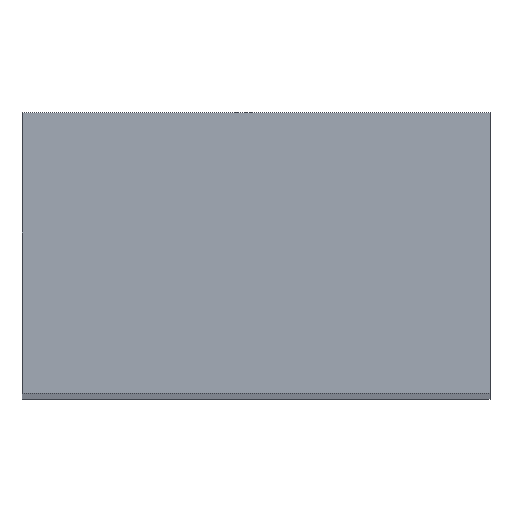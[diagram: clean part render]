
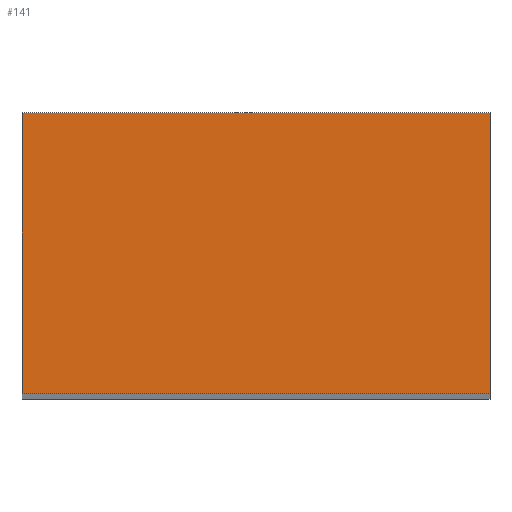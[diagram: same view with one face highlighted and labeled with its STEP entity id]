
A CAD part, top view. The second image highlights one B-rep face of the part: STEP entity #141.
In plain terms, the highlighted planar face has unit normal (0, 0, 1).
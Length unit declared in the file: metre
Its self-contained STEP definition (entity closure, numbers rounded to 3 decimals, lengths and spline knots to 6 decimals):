
#26=ORIENTED_EDGE('',*,*,#54,.F.);
#27=ORIENTED_EDGE('',*,*,#59,.F.);
#28=ORIENTED_EDGE('',*,*,#60,.F.);
#29=ORIENTED_EDGE('',*,*,#48,.F.);
#48=EDGE_CURVE('',#66,#67,#78,.T.);
#54=EDGE_CURVE('',#72,#66,#84,.T.);
#59=EDGE_CURVE('',#75,#72,#89,.T.);
#60=EDGE_CURVE('',#67,#75,#90,.T.);
#66=VERTEX_POINT('',#198);
#67=VERTEX_POINT('',#199);
#72=VERTEX_POINT('',#211);
#75=VERTEX_POINT('',#221);
#78=LINE('',#197,#96);
#84=LINE('',#210,#102);
#89=LINE('',#220,#107);
#90=LINE('',#222,#108);
#96=VECTOR('',#163,1.);
#102=VECTOR('',#171,1.);
#107=VECTOR('',#180,1.);
#108=VECTOR('',#181,1.);
#117=EDGE_LOOP('',(#26,#27,#28,#29));
#125=FACE_BOUND('',#117,.T.);
#133=PLANE('',#154);
#141=ADVANCED_FACE('',(#125),#133,.T.);
#154=AXIS2_PLACEMENT_3D('',#219,#178,#179);
#163=DIRECTION('',(1.,0.,0.));
#171=DIRECTION('',(0.,1.,0.));
#178=DIRECTION('',(0.,0.,1.));
#179=DIRECTION('',(1.,0.,0.));
#180=DIRECTION('',(-1.,0.,0.));
#181=DIRECTION('',(0.,-1.,0.));
#197=CARTESIAN_POINT('',(0.022252,0.024156,0.002395));
#198=CARTESIAN_POINT('',(0.022252,0.024156,0.002395));
#199=CARTESIAN_POINT('',(0.022752,0.024156,0.002395));
#210=CARTESIAN_POINT('',(0.022252,0.023856,0.002395));
#211=CARTESIAN_POINT('',(0.022252,0.023856,0.002395));
#219=CARTESIAN_POINT('',(0.022502,0.024006,0.002395));
#220=CARTESIAN_POINT('',(0.022752,0.023856,0.002395));
#221=CARTESIAN_POINT('',(0.022752,0.023856,0.002395));
#222=CARTESIAN_POINT('',(0.022752,0.024156,0.002395));
